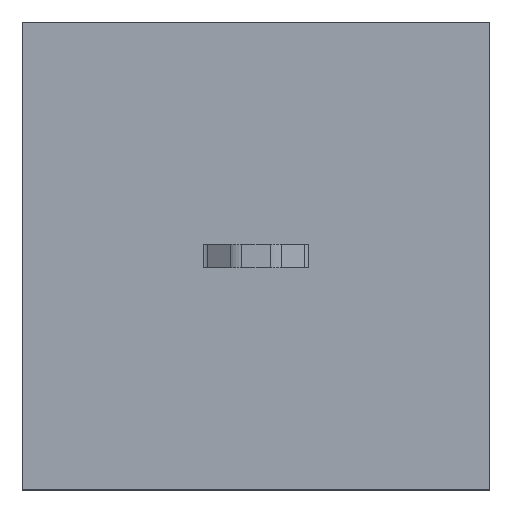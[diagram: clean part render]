
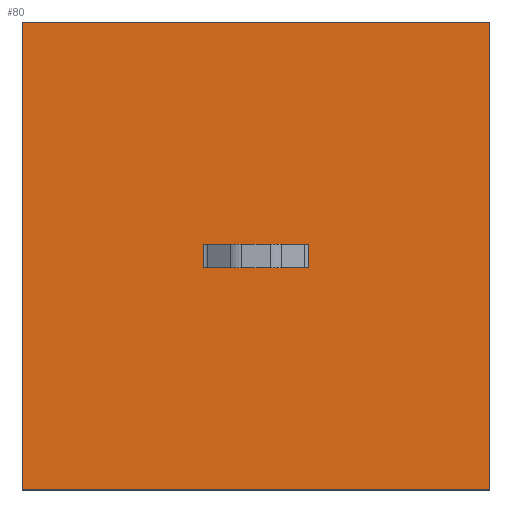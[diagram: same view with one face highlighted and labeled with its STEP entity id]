
A CAD part, top view. The second image highlights one B-rep face of the part: STEP entity #80.
In plain terms, the highlighted planar face has unit normal (0, 0, 1).
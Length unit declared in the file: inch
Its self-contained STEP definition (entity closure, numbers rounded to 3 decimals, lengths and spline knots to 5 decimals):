
#80=ADVANCED_FACE('',(#111,#112),#113,.F.);
#111=FACE_OUTER_BOUND('',#161,.T.);
#112=FACE_BOUND('',#162,.T.);
#113=PLANE('',#163);
#161=EDGE_LOOP('',(#239,#240,#241,#242));
#162=EDGE_LOOP('',(#243,#244,#245,#246,#247,#248,#249,#250));
#163=AXIS2_PLACEMENT_3D('',#251,#252,#253);
#239=ORIENTED_EDGE('',*,*,#411,.T.);
#240=ORIENTED_EDGE('',*,*,#414,.T.);
#241=ORIENTED_EDGE('',*,*,#422,.T.);
#242=ORIENTED_EDGE('',*,*,#423,.T.);
#243=ORIENTED_EDGE('',*,*,#424,.T.);
#244=ORIENTED_EDGE('',*,*,#425,.T.);
#245=ORIENTED_EDGE('',*,*,#426,.T.);
#246=ORIENTED_EDGE('',*,*,#427,.F.);
#247=ORIENTED_EDGE('',*,*,#428,.T.);
#248=ORIENTED_EDGE('',*,*,#429,.F.);
#249=ORIENTED_EDGE('',*,*,#430,.T.);
#250=ORIENTED_EDGE('',*,*,#431,.F.);
#251=CARTESIAN_POINT('',(7.8615,-7.8615,-0.23));
#252=DIRECTION('',(0.,0.,-1.0));
#253=DIRECTION('',(-1.0,0.,0.));
#411=EDGE_CURVE('',#477,#481,#483,.T.);
#414=EDGE_CURVE('',#481,#486,#488,.T.);
#422=EDGE_CURVE('',#486,#500,#502,.T.);
#423=EDGE_CURVE('',#500,#477,#503,.T.);
#424=EDGE_CURVE('',#504,#505,#506,.T.);
#425=EDGE_CURVE('',#505,#507,#508,.T.);
#426=EDGE_CURVE('',#507,#509,#510,.T.);
#427=EDGE_CURVE('',#511,#509,#512,.T.);
#428=EDGE_CURVE('',#511,#513,#514,.T.);
#429=EDGE_CURVE('',#515,#513,#516,.T.);
#430=EDGE_CURVE('',#515,#517,#518,.T.);
#431=EDGE_CURVE('',#504,#517,#519,.T.);
#477=VERTEX_POINT('',#589);
#481=VERTEX_POINT('',#595);
#483=LINE('',#598,#599);
#486=VERTEX_POINT('',#603);
#488=LINE('',#606,#607);
#500=VERTEX_POINT('',#625);
#502=LINE('',#628,#629);
#503=LINE('',#630,#631);
#504=VERTEX_POINT('',#632);
#505=VERTEX_POINT('',#633);
#506=LINE('',#634,#635);
#507=VERTEX_POINT('',#636);
#508=LINE('',#637,#638);
#509=VERTEX_POINT('',#639);
#510=LINE('',#640,#641);
#511=VERTEX_POINT('',#642);
#512=LINE('',#643,#644);
#513=VERTEX_POINT('',#645);
#514=LINE('',#646,#647);
#515=VERTEX_POINT('',#648);
#516=LINE('',#649,#650);
#517=VERTEX_POINT('',#651);
#518=LINE('',#652,#653);
#519=LINE('',#654,#655);
#589=CARTESIAN_POINT('',(6.44,-3.4715,-0.23));
#595=CARTESIAN_POINT('',(6.44,-1.4715,-0.23));
#598=CARTESIAN_POINT('',(6.44,28444.02994,-0.23));
#599=VECTOR('',#755,1.0);
#603=CARTESIAN_POINT('',(4.44,-1.4715,-0.23));
#606=CARTESIAN_POINT('',(16377.26649,-1.4715,-0.23));
#607=VECTOR('',#758,1.0);
#625=CARTESIAN_POINT('',(4.44,-3.4715,-0.23));
#628=CARTESIAN_POINT('',(4.44,34304.30913,-0.23));
#629=VECTOR('',#766,1.0);
#630=CARTESIAN_POINT('',(26388.31811,-3.4715,-0.23));
#631=VECTOR('',#767,1.0);
#632=CARTESIAN_POINT('',(5.66562,-2.5215,-0.23));
#633=CARTESIAN_POINT('',(5.56859,-2.5215,-0.23));
#634=CARTESIAN_POINT('',(5.64374,-2.5215,-0.23));
#635=VECTOR('',#768,0.07514);
#636=CARTESIAN_POINT('',(5.31141,-2.5215,-0.23));
#637=CARTESIAN_POINT('',(5.56859,-2.5215,-0.23));
#638=VECTOR('',#769,0.25719);
#639=CARTESIAN_POINT('',(5.21438,-2.5215,-0.23));
#640=CARTESIAN_POINT('',(5.31141,-2.5215,-0.23));
#641=VECTOR('',#770,0.07514);
#642=CARTESIAN_POINT('',(5.21438,-2.4215,-0.23));
#643=CARTESIAN_POINT('',(5.21438,-2.4215,-0.23));
#644=VECTOR('',#771,0.1);
#645=CARTESIAN_POINT('',(5.31141,-2.4215,-0.23));
#646=CARTESIAN_POINT('',(5.23626,-2.4215,-0.23));
#647=VECTOR('',#772,0.07514);
#648=CARTESIAN_POINT('',(5.56859,-2.4215,-0.23));
#649=CARTESIAN_POINT('',(5.56859,-2.4215,-0.23));
#650=VECTOR('',#773,0.25719);
#651=CARTESIAN_POINT('',(5.66562,-2.4215,-0.23));
#652=CARTESIAN_POINT('',(5.64374,-2.4215,-0.23));
#653=VECTOR('',#774,0.02188);
#654=CARTESIAN_POINT('',(5.66562,-2.5215,-0.23));
#655=VECTOR('',#775,0.1);
#755=DIRECTION('',(0.,1.0,0.));
#758=DIRECTION('',(-1.0,0.,0.));
#766=DIRECTION('',(0.,-1.0,0.));
#767=DIRECTION('',(1.0,0.,0.));
#768=DIRECTION('',(-1.0,0.,0.));
#769=DIRECTION('',(-1.0,0.,0.));
#770=DIRECTION('',(-1.0,0.,0.));
#771=DIRECTION('',(0.,-1.0,0.));
#772=DIRECTION('',(1.0,0.,0.));
#773=DIRECTION('',(-1.0,0.,0.));
#774=DIRECTION('',(1.0,0.,0.));
#775=DIRECTION('',(0.,1.0,0.));
